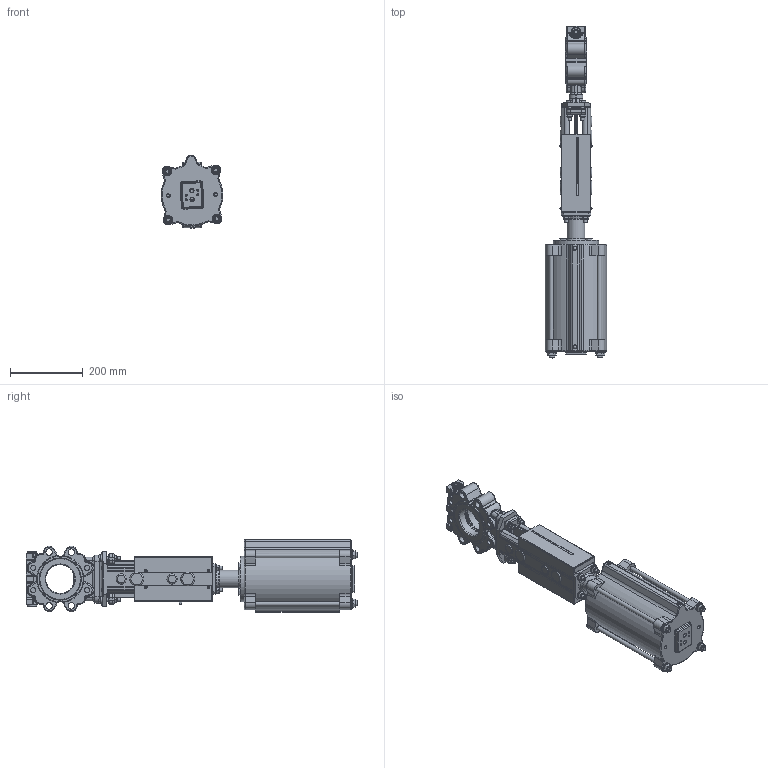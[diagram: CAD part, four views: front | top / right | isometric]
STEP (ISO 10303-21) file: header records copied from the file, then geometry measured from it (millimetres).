
FILE_DESCRIPTION(/* description */ (''),/* implementation_level */ '2;1');
FILE_NAME(/* name */ 'F:\Emir\3D-block special\SLV\SLV-DN80-PN10-FRSC160-140_Shrinkwrap_1.stp',/* time_stamp */ '2018-07-11T08:15:42+02:00',/* author */ ('emimus'),/* organization */ (''),/* preprocessor_version */ 'ST-DEVELOPER v17',/* originating_system */ 'Autodesk Inventor 2018',/* authorisation */ '');
FILE_SCHEMA (('CONFIG_CONTROL_DESIGN'));
Products named in the file (1): SLV-DN80-PN10-FRSC160-140_Shrinkwrap_1
Bounding box: 169.94 x 912.5 x 198.73 mm (x, y, z)
Volume: 4293268 mm3; surface area: 1288323.6 mm2
Topology: 2 solids, 2 shells, 2628 faces, 6731 edges, 4173 vertices
Faces by surface type: plane 952, cylinder 720, torus 311, cone 282, bspline 281, sphere 82
Full cylindrical faces by diameter (mm): 3 x5, 3.242 x8, 4 x6, 4.134 x4, 4.2 x16, 4.5 x4, 6 x1, 6.75 x6, 8 x14, 8.376 x2, 8.4 x4, 8.88 x1, 9 x2, 9.5 x4, 10 x27, 10.5 x4, 11 x4, 11.445 x2, 12 x10, 13 x7, 14 x12, 14.63 x4, 15 x4, 15.5 x1, 16 x6, 17.7 x1, 18 x12, 20 x8, 21 x2, 24 x8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
Entity records: 105937 total; most frequent: CARTESIAN_POINT 43216, DIRECTION 13504, ORIENTED_EDGE 13288, EDGE_CURVE 6644, AXIS2_PLACEMENT_3D 5661, VERTEX_POINT 4173, CIRCLE 3000, EDGE_LOOP 2893
